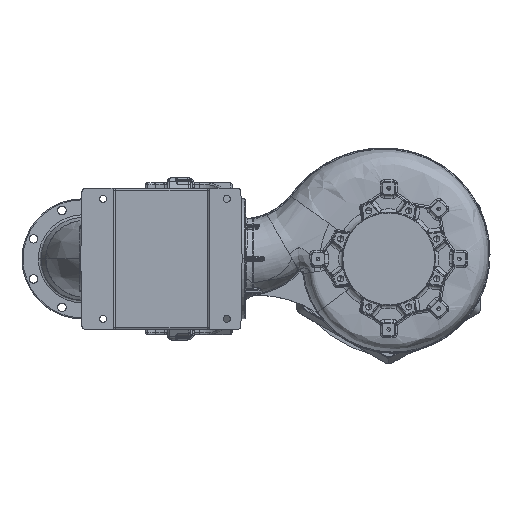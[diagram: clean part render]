
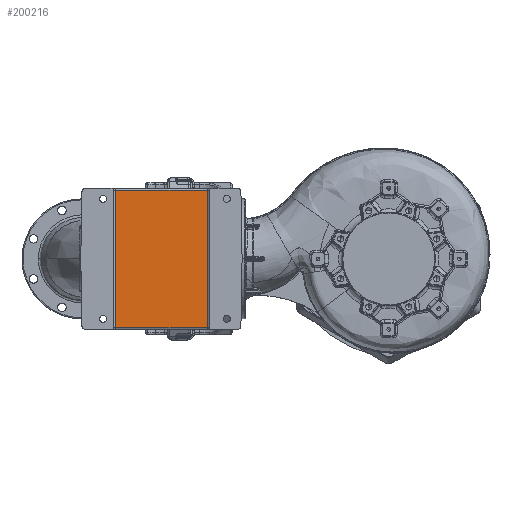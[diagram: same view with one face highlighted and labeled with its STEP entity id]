
A CAD part, front view. The second image highlights one B-rep face of the part: STEP entity #200216.
In plain terms, the highlighted planar face has unit normal (0, -1, 0).
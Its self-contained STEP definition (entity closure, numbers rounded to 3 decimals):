
#9871 = LINE ( 'NONE', #193889, #185245 ) ;
#16910 = DIRECTION ( 'NONE',  ( 0., 0., 1. ) ) ;
#21686 = ORIENTED_EDGE ( 'NONE', *, *, #120997, .T. ) ;
#30796 = VERTEX_POINT ( 'NONE', #238579 ) ;
#41973 = ORIENTED_EDGE ( 'NONE', *, *, #257653, .T. ) ;
#62171 = CARTESIAN_POINT ( 'NONE',  ( -774., -666.702, -195. ) ) ;
#64478 = ORIENTED_EDGE ( 'NONE', *, *, #103361, .T. ) ;
#76716 = AXIS2_PLACEMENT_3D ( 'NONE', #222334, #91054, #244353 ) ;
#91054 = DIRECTION ( 'NONE',  ( 0., 1., 0. ) ) ;
#103361 = EDGE_CURVE ( 'NONE', #282912, #30796, #145454, .T. ) ;
#120997 = EDGE_CURVE ( 'NONE', #145403, #271802, #137129, .T. ) ;
#124217 = CARTESIAN_POINT ( 'NONE',  ( -774., -666.702, 195. ) ) ;
#126628 = CARTESIAN_POINT ( 'NONE',  ( -514., -666.702, 200. ) ) ;
#130577 = PLANE ( 'NONE',  #76716 ) ;
#135245 = CARTESIAN_POINT ( 'NONE',  ( -774., -666.702, -200. ) ) ;
#137129 = LINE ( 'NONE', #135245, #253564 ) ;
#145403 = VERTEX_POINT ( 'NONE', #124217 ) ;
#145454 = LINE ( 'NONE', #126628, #254909 ) ;
#148350 = EDGE_CURVE ( 'NONE', #30796, #145403, #249478, .T. ) ;
#157391 = DIRECTION ( 'NONE',  ( 0., 0., -1. ) ) ;
#164022 = CARTESIAN_POINT ( 'NONE',  ( -514., -666.702, -195. ) ) ;
#166681 = CARTESIAN_POINT ( 'NONE',  ( -779., -666.702, 195. ) ) ;
#185245 = VECTOR ( 'NONE', #215927, 1000. ) ;
#188689 = DIRECTION ( 'NONE',  ( -1., 0., 0. ) ) ;
#191286 = VECTOR ( 'NONE', #188689, 1000. ) ;
#193300 = FACE_OUTER_BOUND ( 'NONE', #199629, .T. ) ;
#193889 = CARTESIAN_POINT ( 'NONE',  ( -509., -666.702, -195. ) ) ;
#199629 = EDGE_LOOP ( 'NONE', ( #41973, #64478, #229311, #21686 ) ) ;
#200216 = ADVANCED_FACE ( 'NONE', ( #193300 ), #130577, .F. ) ;
#215927 = DIRECTION ( 'NONE',  ( 1., 0., 0. ) ) ;
#222334 = CARTESIAN_POINT ( 'NONE',  ( -779., -666.702, -230. ) ) ;
#229311 = ORIENTED_EDGE ( 'NONE', *, *, #148350, .T. ) ;
#238579 = CARTESIAN_POINT ( 'NONE',  ( -514., -666.702, 195. ) ) ;
#244353 = DIRECTION ( 'NONE',  ( 0., 0., 1. ) ) ;
#249478 = LINE ( 'NONE', #166681, #191286 ) ;
#253564 = VECTOR ( 'NONE', #157391, 1000. ) ;
#254909 = VECTOR ( 'NONE', #16910, 1000. ) ;
#257653 = EDGE_CURVE ( 'NONE', #271802, #282912, #9871, .T. ) ;
#271802 = VERTEX_POINT ( 'NONE', #62171 ) ;
#282912 = VERTEX_POINT ( 'NONE', #164022 ) ;
